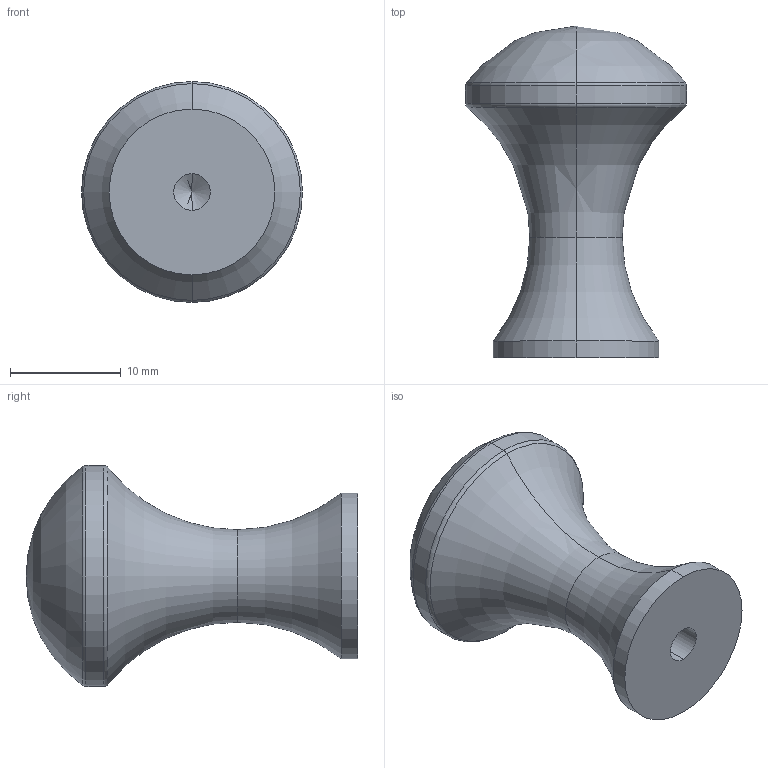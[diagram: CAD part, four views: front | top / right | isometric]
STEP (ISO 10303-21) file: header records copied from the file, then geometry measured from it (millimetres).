
FILE_DESCRIPTION (( 'STEP AP203' ), '1' );
FILE_NAME ('D12-112030.STEP', '2024-12-16T07:41:09', ( '' ), ( '' ), 'SwSTEP 2.0', 'SolidWorks 2021', '' );
FILE_SCHEMA (( 'CONFIG_CONTROL_DESIGN' ));
Length unit declared in the file: millimetre
Products named in the file (1): D12-112030
Bounding box: 20 x 30 x 20 mm (x, y, z)
Volume: 3927.3 mm3; surface area: 1794.5 mm2
Topology: 1 solids, 1 shells, 19 faces, 40 edges, 20 vertices
Faces by surface type: torus 10, cylinder 6, cone 2, plane 1
Entity records: 559 total; most frequent: DIRECTION 104, CARTESIAN_POINT 76, ORIENTED_EDGE 72, AXIS2_PLACEMENT_3D 48, EDGE_CURVE 36, CIRCLE 28, VERTEX_POINT 20, EDGE_LOOP 20
